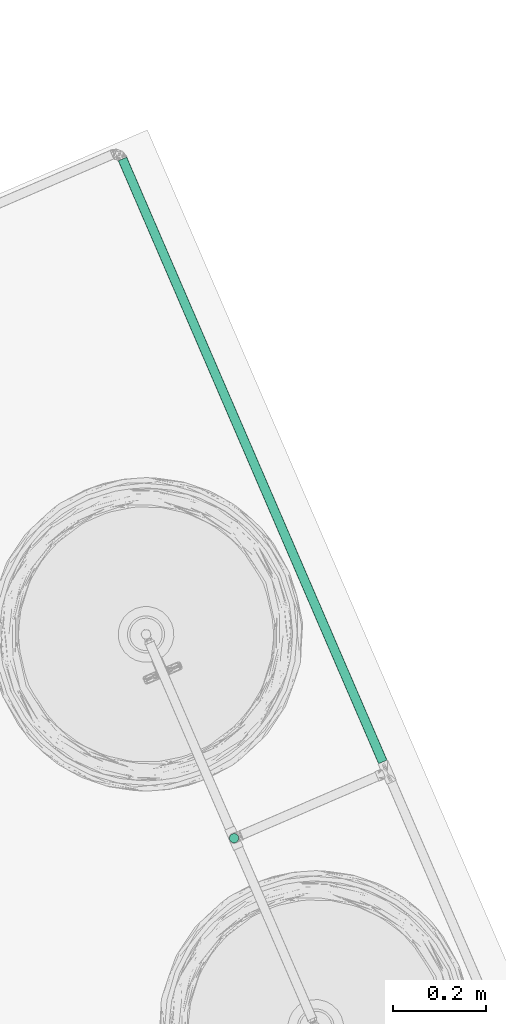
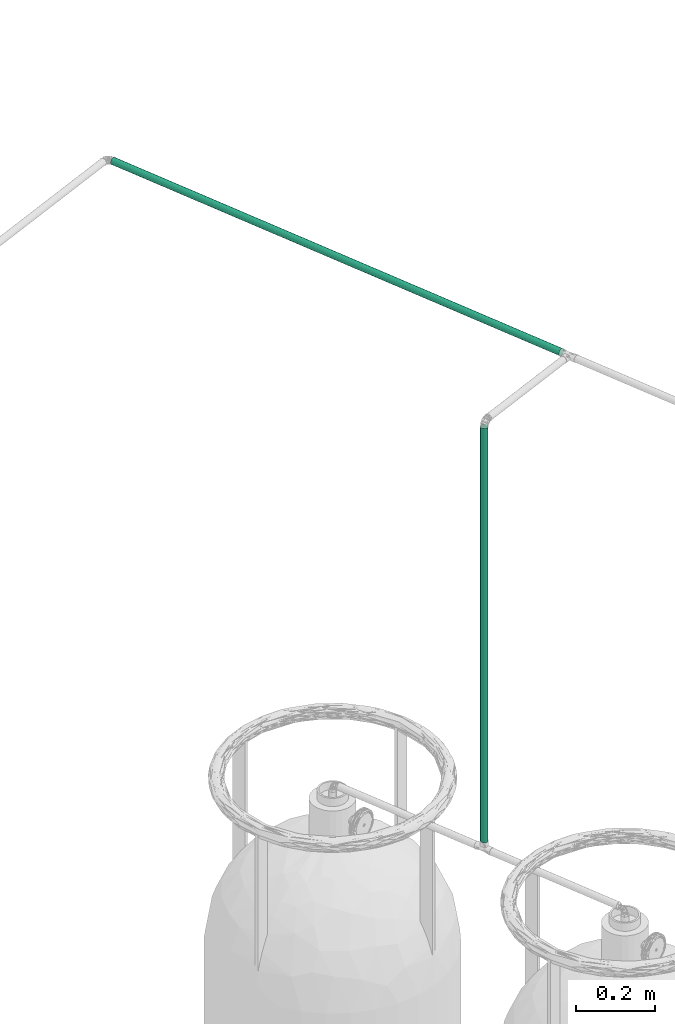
# One storey, part 7 of 26: 2 pipe segments.
"""IFC4 building model written with IfcOpenShell, lengths in metres."""

from ifc_helpers import new_model, entity, si_unit, converted_unit, derived_unit, direction, frame, origin, place, context, subcontext, project, spatial, arc, indexed_curve, outline, extrude, material, type_object, element, save


model = new_model("IFC4")

# Units and contexts
model_context = context("Model", 3, precision=1e-05, world=origin(), true_north=direction((6.12323399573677e-17, 1.0)))
body_context = subcontext(model_context, "Body", "Model", "MODEL_VIEW")
ifc_project = project(units=[si_unit("LENGTHUNIT", "METRE"), si_unit("AREAUNIT", "SQUARE_METRE"), si_unit("VOLUMEUNIT", "CUBIC_METRE"), si_unit("PRESSUREUNIT", "PASCAL"), derived_unit("VOLUMETRICFLOWRATEUNIT", [(si_unit("LENGTHUNIT", "METRE", prefix="DECI"), 3), (si_unit("TIMEUNIT", "SECOND"), -1)]), converted_unit("PLANEANGLEUNIT", "DEGREE", entity("IfcPlaneAngleMeasure", 0.0174532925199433), si_unit("PLANEANGLEUNIT", "RADIAN"), dimensions=[0, 0, 0, 0, 0, 0, 0])], contexts=[model_context])

# Site, building, storey
site_placement = place(None, origin())
site = spatial("IfcSite", under=ifc_project, at=site_placement, Name="Default", CompositionType="ELEMENT")
building_placement = place(site_placement, frame((24.575451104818, -55.896759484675, 317.15), z_axis=(0.0, 0.0, 1.0), x_axis=(-0.396377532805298, 0.918087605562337, 0.0)))
building = spatial("IfcBuilding", under=site, at=building_placement, CompositionType="ELEMENT")
storey_placement = place(building_placement, origin())
storey = spatial("IfcBuildingStorey", under=building, at=storey_placement, Name="Nivel 1", CompositionType="ELEMENT", Elevation=0.0)

# Pipe segments
ifc_material = material(Name="Cobre", Category="Undefined")
pipe_segment_type = type_object("IfcPipeSegmentType", Name="Pipe Types:GAS", PredefinedType="NOTDEFINED")
pipe_segment_1_placement = place(storey_placement, origin())
element("IfcPipeSegment", 1, at=pipe_segment_1_placement, inside=storey, type_object=pipe_segment_type, material=ifc_material, Name="Pipe Types:GAS", ObjectType="Pipe Types:GAS", PredefinedType="NOTDEFINED", context=body_context, shape_type="SweptSolid", body=[
    extrude(outline(indexed_curve([(0.00999999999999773, 5.41433564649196e-16), (0.00707106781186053, 0.00707106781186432), (0.0, 0.00999999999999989), (-0.00707106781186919, 0.00707106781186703), (-0.0100000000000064, 5.41433564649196e-16), (-0.00707106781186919, -0.00707106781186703), (0.0, -0.00999999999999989), (0.00707106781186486, -0.00707106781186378)], segments=[arc(1, 2, 3), arc(3, 4, 5), arc(5, 6, 7), arc(7, 8, 1)], self_intersect=False)), frame((22.0925271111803, 37.6988315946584, 3.0), z_axis=(1.0, 0.0, 0.0), x_axis=(0.0, 1.0, 0.0)), (0.0, 0.0, 1.0), 1.41127732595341),
])
pipe_segment_2_placement = place(storey_placement, origin())
element("IfcPipeSegment", 2, at=pipe_segment_2_placement, inside=storey, type_object=pipe_segment_type, material=ifc_material, Name="Pipe Types:GAS", ObjectType="Pipe Types:GAS", PredefinedType="NOTDEFINED", context=body_context, shape_type="SweptSolid", body=[
    extrude(outline(indexed_curve([(0.0100000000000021, 0.0), (0.00707106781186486, 0.00707106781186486), (0.0, 0.0100000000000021), (-0.00707106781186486, 0.00707106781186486), (-0.0100000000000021, 0.0), (-0.00707106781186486, -0.00707106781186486), (0.0, -0.0100000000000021), (0.00707106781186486, -0.00707106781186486)], segments=[arc(1, 2, 3), arc(3, 4, 5), arc(5, 6, 7), arc(7, 8, 1)], self_intersect=False)), frame((22.0687146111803, 38.0573549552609, 1.70571250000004), z_axis=(0.0, 0.0, 1.0), x_axis=(-1.0, 0.0, 0.0)), (0.0, 0.0, 1.0), 1.27682499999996),
])

save(model, "model.ifc")
